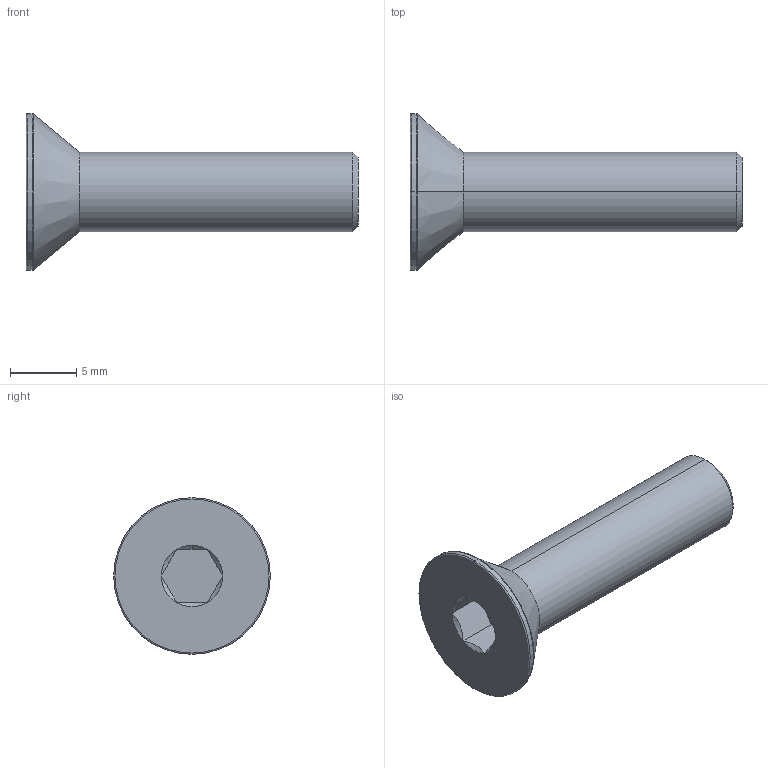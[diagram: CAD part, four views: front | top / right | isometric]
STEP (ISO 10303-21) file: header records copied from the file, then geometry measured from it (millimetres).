
FILE_DESCRIPTION (( 'STEP AP203' ), '1' );
FILE_NAME ('LGDB-304-M6x25.STEP', '2026-08-12T01:40:36', ( '' ), ( '' ), 'SwSTEP 2.0', 'SolidWorks 2020', '' );
FILE_SCHEMA (( 'CONFIG_CONTROL_DESIGN' ));
Length unit declared in the file: millimetre
Products named in the file (1): LGDB-304-M6x25
Bounding box: 25 x 11.8 x 11.8 mm (x, y, z)
Volume: 830.5 mm3; surface area: 712.8 mm2
Topology: 1 solids, 1 shells, 28 faces, 53 edges, 28 vertices
Faces by surface type: cone 11, plane 9, torus 4, cylinder 4
Entity records: 796 total; most frequent: CARTESIAN_POINT 157, DIRECTION 129, ORIENTED_EDGE 106, AXIS2_PLACEMENT_3D 54, EDGE_CURVE 53, EDGE_LOOP 29, ADVANCED_FACE 28, VERTEX_POINT 28
